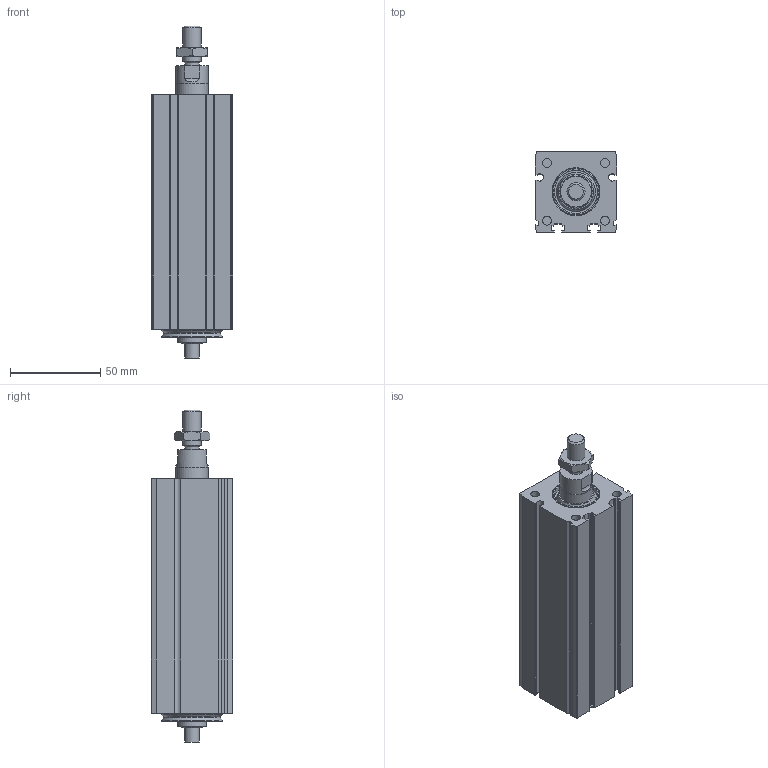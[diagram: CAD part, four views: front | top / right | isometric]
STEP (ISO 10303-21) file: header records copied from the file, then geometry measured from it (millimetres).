
FILE_DESCRIPTION(/* description */ ('STEP AP214'),/* implementation_level */ '2;1');
FILE_NAME(/* name */ 'MCE 45 1003 50 0(0)',/* time_stamp */ '2023-10-05T14:23:32+02:00',/* author */ ('License CC BY-ND 4.0'),/* organization */ ('CADENAS'),/* preprocessor_version */ 'ST-DEVELOPER v19.3',/* originating_system */ 'PARTsolutions',/* authorisation */ ' ');
FILE_SCHEMA (('AUTOMOTIVE_DESIGN {1 0 10303 214 3 1 1}'));
Length unit declared in the file: millimetre
Products named in the file (4): MCE 45 1003 50  0(0); 45_nut; 45(500)_rod; 45(50)_msc
Assembly tree (3 placements, depth 2):
  MCE 45 1003 50  0(0)
    45_nut
    45(500)_rod
    45(50)_msc
Bounding box: 45 x 45 x 184 mm (x, y, z)
Volume: 230959.5 mm3; surface area: 61386.1 mm2
Topology: 3 solids, 3 shells, 212 faces, 525 edges, 341 vertices
Faces by surface type: plane 92, cylinder 92, cone 23, torus 5
Full cylindrical faces by diameter (mm): 3.242 x4, 4.917 x4, 8 x2, 8.376 x1, 10 x1, 16 x1, 17.8 x1, 18 x2, 24 x1, 24.5 x1, 32.5 x2, 34 x2
Entity records: 6269 total; most frequent: CARTESIAN_POINT 1132, DIRECTION 1108, ORIENTED_EDGE 970, EDGE_CURVE 485, AXIS2_PLACEMENT_3D 433, VERTEX_POINT 339, EDGE_LOOP 274, FACE_BOUND 274
